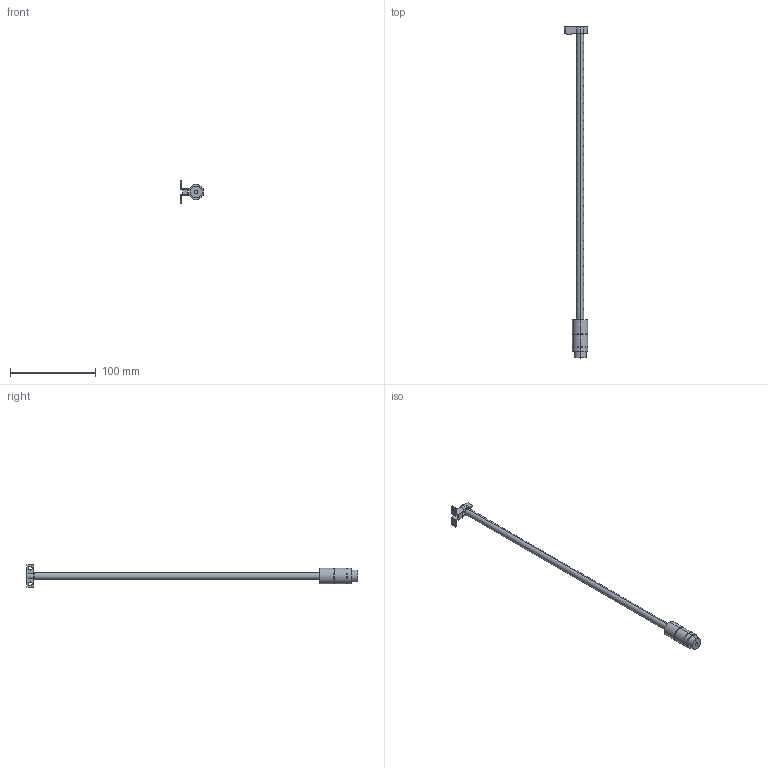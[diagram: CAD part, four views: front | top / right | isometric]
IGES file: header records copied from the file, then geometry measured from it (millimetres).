
Start section: SolidWorks IGES FILE using analytic representation for surfaces
Global section: file name: \\intra-srv04\開発データ\CAD_Data\CAD委員会\3D電子ｶﾀﾛｸﾞ\製品カタログ（新）\0_IGES\ER-VAB032.IGS,41HSolidWorks 2004; native system: by SolidWorks Corporation; preprocessor: Version 5.3; author: mf1158; date: 050905.092841; units: millimetre
Bounding box: 28 x 387.4 x 26 mm (x, y, z)
Volume: 23505.6 mm3; surface area: 18367.3 mm2
Topology: 2 solids, 2 shells, 127 faces, 344 edges, 228 vertices
Faces by surface type: revolution 92, plane 35
